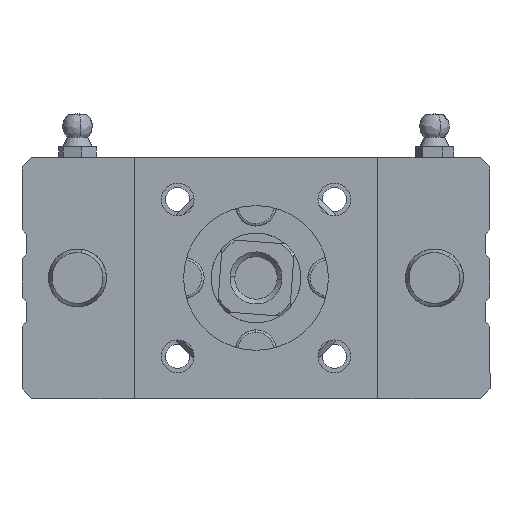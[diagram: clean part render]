
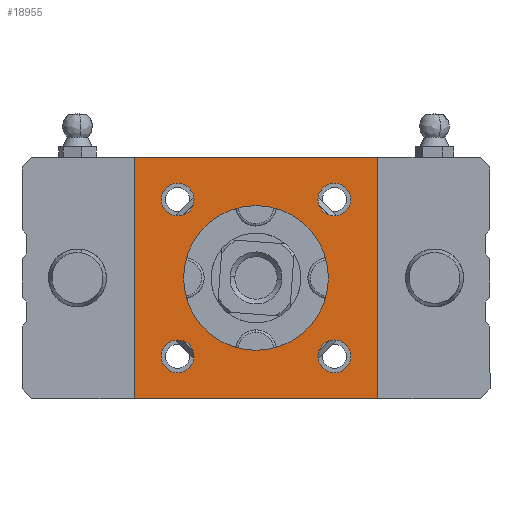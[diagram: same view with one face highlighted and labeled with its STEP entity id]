
A CAD part, front view. The second image highlights one B-rep face of the part: STEP entity #18955.
In plain terms, the highlighted planar face has unit normal (0, -1, 0).
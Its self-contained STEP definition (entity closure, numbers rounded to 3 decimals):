
#83 = CARTESIAN_POINT ( 'NONE',  ( 64.75, 76., 12.15 ) ) ;
#107 = ORIENTED_EDGE ( 'NONE', *, *, #23636, .T. ) ;
#251 = ORIENTED_EDGE ( 'NONE', *, *, #13738, .F. ) ;
#368 = CARTESIAN_POINT ( 'NONE',  ( 64.75, 76., 37.85 ) ) ;
#415 = DIRECTION ( 'NONE',  ( 0., 0., 1. ) ) ;
#464 = AXIS2_PLACEMENT_3D ( 'NONE', #12923, #2001, #14559 ) ;
#469 = DIRECTION ( 'NONE',  ( -1., 0., 0. ) ) ;
#552 = LINE ( 'NONE', #11418, #21157 ) ;
#723 = FACE_BOUND ( 'NONE', #11366, .T. ) ;
#1191 = CIRCLE ( 'NONE', #464, 3.4 ) ;
#1436 = EDGE_CURVE ( 'NONE', #23097, #15204, #10356, .T. ) ;
#1718 = VECTOR ( 'NONE', #2636, 1000. ) ;
#1809 = VERTEX_POINT ( 'NONE', #83 ) ;
#1829 = VERTEX_POINT ( 'NONE', #17041 ) ;
#1847 = DIRECTION ( 'NONE',  ( 0., 0., 1. ) ) ;
#1851 = EDGE_CURVE ( 'NONE', #6115, #1829, #14881, .T. ) ;
#2001 = DIRECTION ( 'NONE',  ( 0., -1., 0. ) ) ;
#2072 = CARTESIAN_POINT ( 'NONE',  ( 32.25, 76., 5.35 ) ) ;
#2225 = CARTESIAN_POINT ( 'NONE',  ( 32.25, 76., 37.85 ) ) ;
#2384 = ORIENTED_EDGE ( 'NONE', *, *, #23005, .F. ) ;
#2636 = DIRECTION ( 'NONE',  ( -1., 0., 0. ) ) ;
#2729 = VERTEX_POINT ( 'NONE', #368 ) ;
#2885 = CARTESIAN_POINT ( 'NONE',  ( 64.75, 76., 8.75 ) ) ;
#2961 = EDGE_CURVE ( 'NONE', #9252, #1829, #15071, .T. ) ;
#3287 = CARTESIAN_POINT ( 'NONE',  ( 64.75, 76., 44.65 ) ) ;
#3914 = DIRECTION ( 'NONE',  ( 0., -1., 0. ) ) ;
#4204 = VECTOR ( 'NONE', #10864, 1000. ) ;
#4439 = EDGE_CURVE ( 'NONE', #18628, #16726, #17321, .T. ) ;
#4716 = EDGE_CURVE ( 'NONE', #16726, #18628, #22731, .T. ) ;
#4791 = CIRCLE ( 'NONE', #22716, 3.4 ) ;
#5157 = CIRCLE ( 'NONE', #17774, 3.4 ) ;
#5308 = CARTESIAN_POINT ( 'NONE',  ( 64.75, 76., 41.25 ) ) ;
#6115 = VERTEX_POINT ( 'NONE', #19204 ) ;
#6247 = EDGE_LOOP ( 'NONE', ( #20608, #11909 ) ) ;
#6744 = FACE_BOUND ( 'NONE', #14629, .T. ) ;
#6788 = LINE ( 'NONE', #16192, #19064 ) ;
#6798 = ORIENTED_EDGE ( 'NONE', *, *, #1436, .F. ) ;
#6841 = DIRECTION ( 'NONE',  ( 0., -1., 0. ) ) ;
#7459 = EDGE_LOOP ( 'NONE', ( #2384, #107, #9822, #19285 ) ) ;
#7584 = FACE_BOUND ( 'NONE', #6247, .T. ) ;
#8276 = ORIENTED_EDGE ( 'NONE', *, *, #8803, .F. ) ;
#8668 = ORIENTED_EDGE ( 'NONE', *, *, #21565, .F. ) ;
#8803 = EDGE_CURVE ( 'NONE', #21276, #1809, #22030, .T. ) ;
#9182 = ORIENTED_EDGE ( 'NONE', *, *, #23171, .F. ) ;
#9252 = VERTEX_POINT ( 'NONE', #11734 ) ;
#9268 = CARTESIAN_POINT ( 'NONE',  ( 64.75, 76., 5.35 ) ) ;
#9562 = CARTESIAN_POINT ( 'NONE',  ( 32.25, 76., 41.25 ) ) ;
#9822 = ORIENTED_EDGE ( 'NONE', *, *, #2961, .T. ) ;
#9891 = AXIS2_PLACEMENT_3D ( 'NONE', #5308, #16186, #12544 ) ;
#10356 = CIRCLE ( 'NONE', #16449, 15. ) ;
#10730 = EDGE_CURVE ( 'NONE', #19946, #22719, #15049, .T. ) ;
#10754 = VERTEX_POINT ( 'NONE', #20379 ) ;
#10864 = DIRECTION ( 'NONE',  ( 0., 0., -1. ) ) ;
#11022 = EDGE_LOOP ( 'NONE', ( #23092, #9182 ) ) ;
#11235 = EDGE_CURVE ( 'NONE', #2729, #18899, #17069, .T. ) ;
#11325 = AXIS2_PLACEMENT_3D ( 'NONE', #2885, #22952, #12141 ) ;
#11362 = CARTESIAN_POINT ( 'NONE',  ( 32.25, 76., 41.25 ) ) ;
#11366 = EDGE_LOOP ( 'NONE', ( #251, #8276 ) ) ;
#11418 = CARTESIAN_POINT ( 'NONE',  ( 0., 76., 50. ) ) ;
#11435 = DIRECTION ( 'NONE',  ( 0., -1., 0. ) ) ;
#11529 = DIRECTION ( 'NONE',  ( 0., -1., 0. ) ) ;
#11734 = CARTESIAN_POINT ( 'NONE',  ( 23.25, 76., 50. ) ) ;
#11909 = ORIENTED_EDGE ( 'NONE', *, *, #4716, .F. ) ;
#12029 = DIRECTION ( 'NONE',  ( 1., 0., 0. ) ) ;
#12141 = DIRECTION ( 'NONE',  ( 0., 0., 1. ) ) ;
#12214 = CARTESIAN_POINT ( 'NONE',  ( 32.25, 76., 12.15 ) ) ;
#12408 = DIRECTION ( 'NONE',  ( 0., 0., -1. ) ) ;
#12544 = DIRECTION ( 'NONE',  ( 0., 0., 1. ) ) ;
#12707 = DIRECTION ( 'NONE',  ( 1., 0., 0. ) ) ;
#12881 = EDGE_CURVE ( 'NONE', #15204, #23097, #20936, .T. ) ;
#12923 = CARTESIAN_POINT ( 'NONE',  ( 64.75, 76., 8.75 ) ) ;
#13198 = DIRECTION ( 'NONE',  ( 0., 0., 1. ) ) ;
#13486 = AXIS2_PLACEMENT_3D ( 'NONE', #13956, #15484, #12029 ) ;
#13573 = CARTESIAN_POINT ( 'NONE',  ( 73.75, 76., 0. ) ) ;
#13738 = EDGE_CURVE ( 'NONE', #1809, #21276, #1191, .T. ) ;
#13956 = CARTESIAN_POINT ( 'NONE',  ( 48.5, 76., 25. ) ) ;
#14082 = CARTESIAN_POINT ( 'NONE',  ( 32.25, 76., 8.75 ) ) ;
#14559 = DIRECTION ( 'NONE',  ( 0., 0., 1. ) ) ;
#14629 = EDGE_LOOP ( 'NONE', ( #6798, #16863 ) ) ;
#14706 = PLANE ( 'NONE',  #22006 ) ;
#14816 = CARTESIAN_POINT ( 'NONE',  ( 48.5, 76., 25. ) ) ;
#14873 = CARTESIAN_POINT ( 'NONE',  ( 32.25, 76., 8.75 ) ) ;
#14881 = LINE ( 'NONE', #13573, #1718 ) ;
#15049 = CIRCLE ( 'NONE', #15223, 3.4 ) ;
#15071 = LINE ( 'NONE', #16452, #4204 ) ;
#15180 = CARTESIAN_POINT ( 'NONE',  ( 33.5, 76., 25. ) ) ;
#15204 = VERTEX_POINT ( 'NONE', #15180 ) ;
#15223 = AXIS2_PLACEMENT_3D ( 'NONE', #11362, #11435, #415 ) ;
#15484 = DIRECTION ( 'NONE',  ( 0., -1., 0. ) ) ;
#16186 = DIRECTION ( 'NONE',  ( 0., -1., 0. ) ) ;
#16192 = CARTESIAN_POINT ( 'NONE',  ( 73.75, 76., 50. ) ) ;
#16449 = AXIS2_PLACEMENT_3D ( 'NONE', #14816, #20311, #12707 ) ;
#16452 = CARTESIAN_POINT ( 'NONE',  ( 23.25, 76., 50. ) ) ;
#16545 = DIRECTION ( 'NONE',  ( -1., 0., 0. ) ) ;
#16726 = VERTEX_POINT ( 'NONE', #2072 ) ;
#16747 = CARTESIAN_POINT ( 'NONE',  ( 32.25, 76., 44.65 ) ) ;
#16863 = ORIENTED_EDGE ( 'NONE', *, *, #12881, .F. ) ;
#17041 = CARTESIAN_POINT ( 'NONE',  ( 23.25, 76., 0. ) ) ;
#17069 = CIRCLE ( 'NONE', #9891, 3.4 ) ;
#17321 = CIRCLE ( 'NONE', #22815, 3.4 ) ;
#17774 = AXIS2_PLACEMENT_3D ( 'NONE', #17802, #6841, #19621 ) ;
#17802 = CARTESIAN_POINT ( 'NONE',  ( 64.75, 76., 41.25 ) ) ;
#18554 = CARTESIAN_POINT ( 'NONE',  ( 63.5, 76., 25. ) ) ;
#18628 = VERTEX_POINT ( 'NONE', #12214 ) ;
#18899 = VERTEX_POINT ( 'NONE', #3287 ) ;
#18955 = ADVANCED_FACE ( 'NONE', ( #723, #7584, #6744, #21608, #21012, #19594 ), #14706, .F. ) ;
#19064 = VECTOR ( 'NONE', #12408, 1000. ) ;
#19204 = CARTESIAN_POINT ( 'NONE',  ( 73.75, 76., 0. ) ) ;
#19285 = ORIENTED_EDGE ( 'NONE', *, *, #1851, .F. ) ;
#19500 = DIRECTION ( 'NONE',  ( 0., 0., 1. ) ) ;
#19594 = FACE_OUTER_BOUND ( 'NONE', #7459, .T. ) ;
#19621 = DIRECTION ( 'NONE',  ( 0., 0., 1. ) ) ;
#19845 = EDGE_LOOP ( 'NONE', ( #8668, #22295 ) ) ;
#19946 = VERTEX_POINT ( 'NONE', #16747 ) ;
#20119 = CARTESIAN_POINT ( 'NONE',  ( 73.75, 76., 50. ) ) ;
#20311 = DIRECTION ( 'NONE',  ( 0., -1., 0. ) ) ;
#20379 = CARTESIAN_POINT ( 'NONE',  ( 73.75, 76., 50. ) ) ;
#20608 = ORIENTED_EDGE ( 'NONE', *, *, #4439, .F. ) ;
#20936 = CIRCLE ( 'NONE', #13486, 15. ) ;
#21012 = FACE_BOUND ( 'NONE', #11022, .T. ) ;
#21157 = VECTOR ( 'NONE', #469, 1000. ) ;
#21258 = AXIS2_PLACEMENT_3D ( 'NONE', #14873, #3914, #1847 ) ;
#21276 = VERTEX_POINT ( 'NONE', #9268 ) ;
#21565 = EDGE_CURVE ( 'NONE', #18899, #2729, #5157, .T. ) ;
#21608 = FACE_BOUND ( 'NONE', #19845, .T. ) ;
#22006 = AXIS2_PLACEMENT_3D ( 'NONE', #20119, #22143, #16545 ) ;
#22030 = CIRCLE ( 'NONE', #11325, 3.4 ) ;
#22143 = DIRECTION ( 'NONE',  ( 0., 1., 0. ) ) ;
#22295 = ORIENTED_EDGE ( 'NONE', *, *, #11235, .F. ) ;
#22716 = AXIS2_PLACEMENT_3D ( 'NONE', #9562, #11529, #13198 ) ;
#22719 = VERTEX_POINT ( 'NONE', #2225 ) ;
#22731 = CIRCLE ( 'NONE', #21258, 3.4 ) ;
#22815 = AXIS2_PLACEMENT_3D ( 'NONE', #14082, #23048, #19500 ) ;
#22952 = DIRECTION ( 'NONE',  ( 0., -1., 0. ) ) ;
#23005 = EDGE_CURVE ( 'NONE', #10754, #6115, #6788, .T. ) ;
#23048 = DIRECTION ( 'NONE',  ( 0., -1., 0. ) ) ;
#23092 = ORIENTED_EDGE ( 'NONE', *, *, #10730, .F. ) ;
#23097 = VERTEX_POINT ( 'NONE', #18554 ) ;
#23171 = EDGE_CURVE ( 'NONE', #22719, #19946, #4791, .T. ) ;
#23636 = EDGE_CURVE ( 'NONE', #10754, #9252, #552, .T. ) ;
